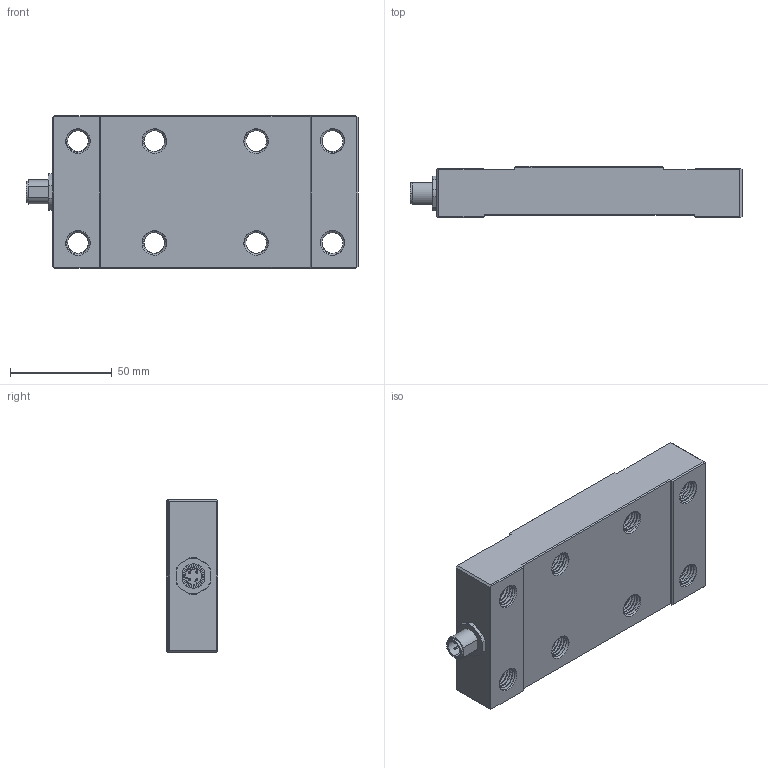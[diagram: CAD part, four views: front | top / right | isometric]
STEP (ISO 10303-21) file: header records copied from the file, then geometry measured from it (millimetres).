
FILE_DESCRIPTION (( 'STEP AP214' ), '1' );
FILE_NAME ('Soemer-KLA1-10kN.STEP', '2026-07-03T11:51:23', ( '' ), ( '' ), 'SwSTEP 2.0', 'SolidWorks 2019', '' );
FILE_SCHEMA (( 'AUTOMOTIVE_DESIGN' ));
Length unit declared in the file: millimetre
Products named in the file (5): KLA1-10kN Grundkörper; M12 Flanschstecker; 86_0131_0002_00004_01; 86_0131_0002_00004_02; Soemer-KLA1-10kN
Assembly tree (4 placements, depth 3):
  Soemer-KLA1-10kN
    KLA1-10kN Grundkörper
    M12 Flanschstecker
      86_0131_0002_00004_01
      86_0131_0002_00004_02
Bounding box: 163.02 x 25.4 x 75 mm (x, y, z)
Volume: 250528.5 mm3; surface area: 44585.7 mm2
Topology: 3 solids, 8 shells, 536 faces, 1488 edges, 964 vertices
Faces by surface type: cylinder 289, plane 113, cone 78, bspline 40, sphere 8, torus 8
Entity records: 59230 total; most frequent: CARTESIAN_POINT 44257, ORIENTED_EDGE 2928, DIRECTION 2043, EDGE_CURVE 1464, VERTEX_POINT 956, AXIS2_PLACEMENT_3D 730, VECTOR 583, LINE 583
